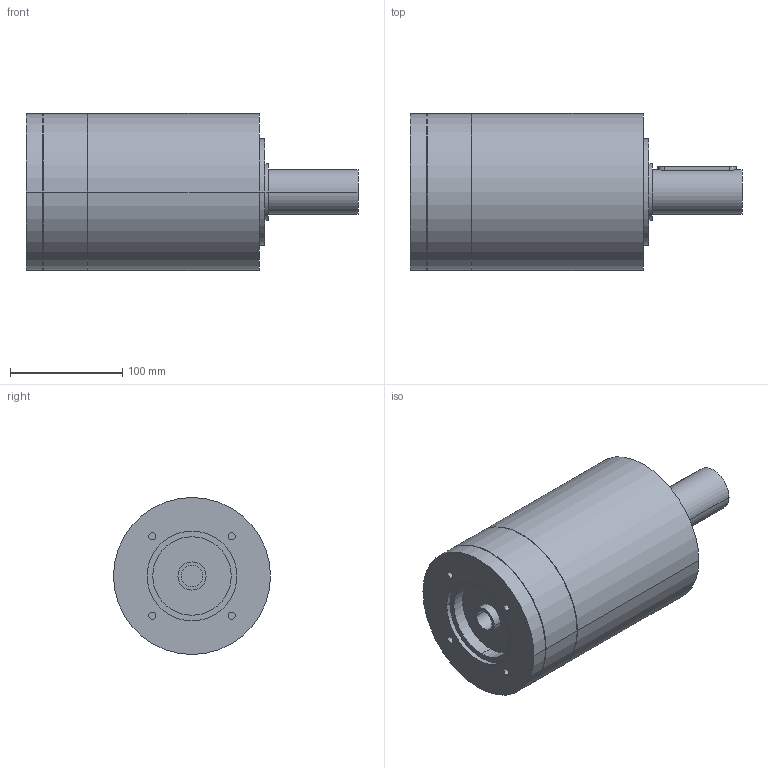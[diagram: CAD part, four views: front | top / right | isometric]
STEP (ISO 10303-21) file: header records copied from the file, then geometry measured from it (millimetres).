
FILE_DESCRIPTION(('CoCreate Modeling STEP Export'),'2;1');
FILE_NAME('GPR150_ig-9-12-16-20-28-35_40_B14_19_P02.stp','2014-08-19T17:03:15',(''),(''),'CoCreate Modeling STEP processor for AP214 (Solid Model)','CoCreate Modeling 16.00C 25-Feb-2009 (C) Parametric Technology GmbH','');
FILE_SCHEMA(('AUTOMOTIVE_DESIGN { 1 0 10303 214 1 1 1 1 }'));
Length unit declared in the file: millimetre
Products named in the file (2): GPR150_ig-9-12-16-20-28-35_40_B14_19_P02
Assembly tree (1 placements, depth 2):
  GPR150_ig-9-12-16-20-28-35_40_B14_19_P02
    GPR150_ig-9-12-16-20-28-35_40_B14_19_P02
Bounding box: 296 x 140 x 140 mm (x, y, z)
Volume: 3259125.6 mm3; surface area: 148591.1 mm2
Topology: 1 solids, 1 shells, 80 faces, 198 edges, 140 vertices
Faces by surface type: cylinder 48, plane 26, cone 6
Entity records: 2040 total; most frequent: ORIENTED_EDGE 392, CARTESIAN_POINT 391, DIRECTION 266, EDGE_CURVE 196, VERTEX_POINT 140, AXIS2_PLACEMENT_3D 103, EDGE_LOOP 102, FACE_OUTER_BOUND 80
